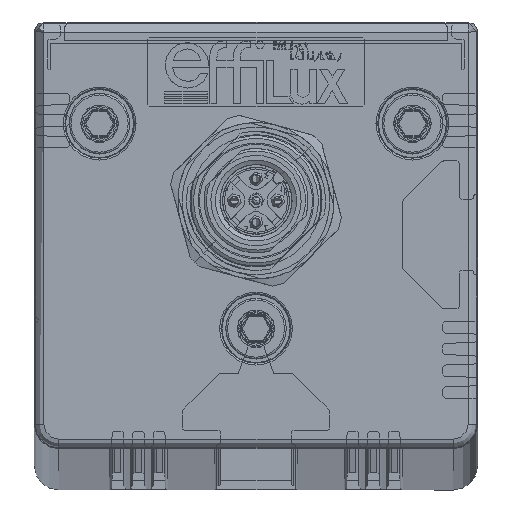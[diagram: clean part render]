
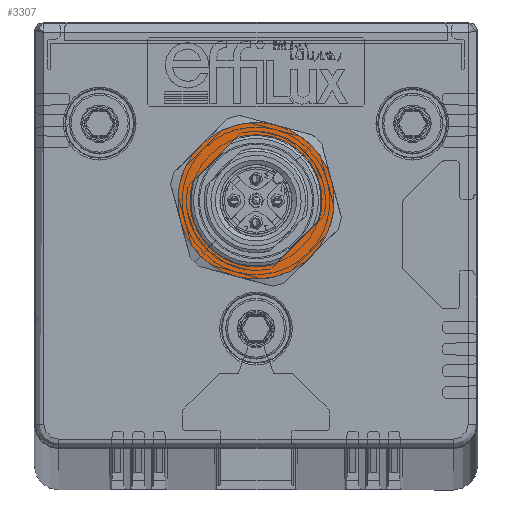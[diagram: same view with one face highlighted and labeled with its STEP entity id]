
A CAD part, top view. The second image highlights one B-rep face of the part: STEP entity #3307.
In plain terms, the highlighted planar face has unit normal (0, 0, 1).
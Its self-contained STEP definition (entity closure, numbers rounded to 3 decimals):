
#149 = CIRCLE ( 'NONE', #42165, 9. ) ;
#784 = CARTESIAN_POINT ( 'NONE',  ( 6.7, 3.587, 7.1 ) ) ;
#1304 = CARTESIAN_POINT ( 'NONE',  ( 0., 0., 7.1 ) ) ;
#1463 = EDGE_CURVE ( 'NONE', #29185, #13051, #8352, .T. ) ;
#2133 = EDGE_CURVE ( 'NONE', #51586, #27039, #5470, .T. ) ;
#2471 = EDGE_CURVE ( 'NONE', #17394, #15857, #44747, .T. ) ;
#2981 = FACE_OUTER_BOUND ( 'NONE', #41824, .T. ) ;
#3247 = DIRECTION ( 'NONE',  ( 0., 0., -1. ) ) ;
#3307 = ADVANCED_FACE ( 'NONE', ( #2981, #34090 ), #7751, .T. ) ;
#5204 = ORIENTED_EDGE ( 'NONE', *, *, #26013, .T. ) ;
#5420 = VECTOR ( 'NONE', #56370, 1000. ) ;
#5470 = LINE ( 'NONE', #47095, #5420 ) ;
#5685 = EDGE_CURVE ( 'NONE', #15857, #29185, #22769, .T. ) ;
#5834 = DIRECTION ( 'NONE',  ( 0., 0., -1. ) ) ;
#6469 = CIRCLE ( 'NONE', #48573, 7.6 ) ;
#6574 = AXIS2_PLACEMENT_3D ( 'NONE', #40348, #50250, #8043 ) ;
#7114 = EDGE_CURVE ( 'NONE', #54009, #11829, #10774, .T. ) ;
#7751 = PLANE ( 'NONE',  #6574 ) ;
#7916 = AXIS2_PLACEMENT_3D ( 'NONE', #1304, #13552, #31791 ) ;
#8043 = DIRECTION ( 'NONE',  ( 1., 0., 0. ) ) ;
#8352 = CIRCLE ( 'NONE', #23625, 9. ) ;
#9335 = ORIENTED_EDGE ( 'NONE', *, *, #2133, .F. ) ;
#10774 = CIRCLE ( 'NONE', #7916, 7.6 ) ;
#10815 = DIRECTION ( 'NONE',  ( 0., 1., 0. ) ) ;
#11557 = ORIENTED_EDGE ( 'NONE', *, *, #26940, .F. ) ;
#11829 = VERTEX_POINT ( 'NONE', #784 ) ;
#11903 = ORIENTED_EDGE ( 'NONE', *, *, #2471, .F. ) ;
#12053 = CARTESIAN_POINT ( 'NONE',  ( 4.5, 7.794, 7.1 ) ) ;
#12454 = CARTESIAN_POINT ( 'NONE',  ( 6.7, 0., 7.1 ) ) ;
#12779 = CARTESIAN_POINT ( 'NONE',  ( 0., 0., 7.1 ) ) ;
#13051 = VERTEX_POINT ( 'NONE', #52638 ) ;
#13552 = DIRECTION ( 'NONE',  ( 0., 0., -1. ) ) ;
#13878 = DIRECTION ( 'NONE',  ( 0., 1., 0. ) ) ;
#13961 = DIRECTION ( 'NONE',  ( 0., 0., -1. ) ) ;
#14303 = ORIENTED_EDGE ( 'NONE', *, *, #1463, .F. ) ;
#14946 = EDGE_CURVE ( 'NONE', #51056, #11829, #44225, .T. ) ;
#14970 = CARTESIAN_POINT ( 'NONE',  ( 0., 0., 7.1 ) ) ;
#15439 = CARTESIAN_POINT ( 'NONE',  ( -6.7, -3.587, 7.1 ) ) ;
#15857 = VERTEX_POINT ( 'NONE', #18805 ) ;
#16458 = CARTESIAN_POINT ( 'NONE',  ( 0., 0., 7.1 ) ) ;
#16747 = DIRECTION ( 'NONE',  ( 0., 0., -1. ) ) ;
#17286 = CARTESIAN_POINT ( 'NONE',  ( 0., 0., 7.1 ) ) ;
#17394 = VERTEX_POINT ( 'NONE', #12053 ) ;
#17906 = AXIS2_PLACEMENT_3D ( 'NONE', #27362, #45694, #50168 ) ;
#18752 = CIRCLE ( 'NONE', #21613, 9. ) ;
#18805 = CARTESIAN_POINT ( 'NONE',  ( 9., 0., 7.1 ) ) ;
#20945 = DIRECTION ( 'NONE',  ( 0., 0., -1. ) ) ;
#21156 = CIRCLE ( 'NONE', #34540, 7.6 ) ;
#21182 = DIRECTION ( 'NONE',  ( 0., 0., -1. ) ) ;
#21346 = ORIENTED_EDGE ( 'NONE', *, *, #22306, .T. ) ;
#21613 = AXIS2_PLACEMENT_3D ( 'NONE', #44408, #57920, #52869 ) ;
#22265 = ORIENTED_EDGE ( 'NONE', *, *, #7114, .T. ) ;
#22306 = EDGE_CURVE ( 'NONE', #51586, #54009, #6469, .T. ) ;
#22341 = EDGE_LOOP ( 'NONE', ( #32105, #5204, #9335, #21346, #22265 ) ) ;
#22769 = CIRCLE ( 'NONE', #56320, 9. ) ;
#22979 = AXIS2_PLACEMENT_3D ( 'NONE', #52413, #3247, #25667 ) ;
#23625 = AXIS2_PLACEMENT_3D ( 'NONE', #46279, #5834, #13878 ) ;
#23839 = CARTESIAN_POINT ( 'NONE',  ( -6.7, 3.587, 7.1 ) ) ;
#25567 = VECTOR ( 'NONE', #58030, 1000. ) ;
#25667 = DIRECTION ( 'NONE',  ( 0., 1., 0. ) ) ;
#26013 = EDGE_CURVE ( 'NONE', #51056, #27039, #21156, .T. ) ;
#26060 = AXIS2_PLACEMENT_3D ( 'NONE', #26851, #13961, #46063 ) ;
#26851 = CARTESIAN_POINT ( 'NONE',  ( 0., 0., 7.1 ) ) ;
#26940 = EDGE_CURVE ( 'NONE', #35857, #36976, #31753, .T. ) ;
#27039 = VERTEX_POINT ( 'NONE', #15439 ) ;
#27362 = CARTESIAN_POINT ( 'NONE',  ( 0., 0., 7.1 ) ) ;
#29185 = VERTEX_POINT ( 'NONE', #46247 ) ;
#31613 = DIRECTION ( 'NONE',  ( 0., 0., -1. ) ) ;
#31753 = CIRCLE ( 'NONE', #26060, 9. ) ;
#31791 = DIRECTION ( 'NONE',  ( 1., 0., 0. ) ) ;
#32105 = ORIENTED_EDGE ( 'NONE', *, *, #14946, .F. ) ;
#32308 = EDGE_CURVE ( 'NONE', #36976, #17394, #18752, .T. ) ;
#33401 = ORIENTED_EDGE ( 'NONE', *, *, #5685, .F. ) ;
#34090 = FACE_BOUND ( 'NONE', #22341, .T. ) ;
#34540 = AXIS2_PLACEMENT_3D ( 'NONE', #17286, #21182, #34646 ) ;
#34642 = ORIENTED_EDGE ( 'NONE', *, *, #46246, .F. ) ;
#34646 = DIRECTION ( 'NONE',  ( 1., 0., 0. ) ) ;
#35857 = VERTEX_POINT ( 'NONE', #45784 ) ;
#36976 = VERTEX_POINT ( 'NONE', #45754 ) ;
#37377 = CARTESIAN_POINT ( 'NONE',  ( 6.7, -3.587, 7.1 ) ) ;
#40348 = CARTESIAN_POINT ( 'NONE',  ( 0., 7.6, 7.1 ) ) ;
#41824 = EDGE_LOOP ( 'NONE', ( #11557, #58045, #34642, #14303, #33401, #11903, #51996 ) ) ;
#42165 = AXIS2_PLACEMENT_3D ( 'NONE', #16458, #16747, #57537 ) ;
#44225 = LINE ( 'NONE', #12454, #25567 ) ;
#44408 = CARTESIAN_POINT ( 'NONE',  ( 0., 0., 7.1 ) ) ;
#44747 = CIRCLE ( 'NONE', #17906, 9. ) ;
#45694 = DIRECTION ( 'NONE',  ( 0., 0., -1. ) ) ;
#45754 = CARTESIAN_POINT ( 'NONE',  ( 0., 9., 7.1 ) ) ;
#45784 = CARTESIAN_POINT ( 'NONE',  ( -4.5, 7.794, 7.1 ) ) ;
#46014 = CIRCLE ( 'NONE', #22979, 9. ) ;
#46063 = DIRECTION ( 'NONE',  ( 0., 1., 0. ) ) ;
#46246 = EDGE_CURVE ( 'NONE', #13051, #56810, #149, .T. ) ;
#46247 = CARTESIAN_POINT ( 'NONE',  ( 4.5, -7.794, 7.1 ) ) ;
#46279 = CARTESIAN_POINT ( 'NONE',  ( 0., 0., 7.1 ) ) ;
#47095 = CARTESIAN_POINT ( 'NONE',  ( -6.7, 0., 7.1 ) ) ;
#48573 = AXIS2_PLACEMENT_3D ( 'NONE', #12779, #31613, #49946 ) ;
#48891 = CARTESIAN_POINT ( 'NONE',  ( -9., 0., 7.1 ) ) ;
#49946 = DIRECTION ( 'NONE',  ( 1., 0., 0. ) ) ;
#50161 = CARTESIAN_POINT ( 'NONE',  ( 0., 7.6, 7.1 ) ) ;
#50168 = DIRECTION ( 'NONE',  ( 0., 1., 0. ) ) ;
#50250 = DIRECTION ( 'NONE',  ( 0., 0., 1. ) ) ;
#51056 = VERTEX_POINT ( 'NONE', #37377 ) ;
#51586 = VERTEX_POINT ( 'NONE', #23839 ) ;
#51996 = ORIENTED_EDGE ( 'NONE', *, *, #32308, .F. ) ;
#52413 = CARTESIAN_POINT ( 'NONE',  ( 0., 0., 7.1 ) ) ;
#52638 = CARTESIAN_POINT ( 'NONE',  ( -4.5, -7.794, 7.1 ) ) ;
#52869 = DIRECTION ( 'NONE',  ( 0., 1., 0. ) ) ;
#54009 = VERTEX_POINT ( 'NONE', #50161 ) ;
#55086 = EDGE_CURVE ( 'NONE', #56810, #35857, #46014, .T. ) ;
#56320 = AXIS2_PLACEMENT_3D ( 'NONE', #14970, #20945, #10815 ) ;
#56370 = DIRECTION ( 'NONE',  ( 0., -1., 0. ) ) ;
#56810 = VERTEX_POINT ( 'NONE', #48891 ) ;
#57537 = DIRECTION ( 'NONE',  ( 0., 1., 0. ) ) ;
#57920 = DIRECTION ( 'NONE',  ( 0., 0., -1. ) ) ;
#58030 = DIRECTION ( 'NONE',  ( 0., 1., 0. ) ) ;
#58045 = ORIENTED_EDGE ( 'NONE', *, *, #55086, .F. ) ;
